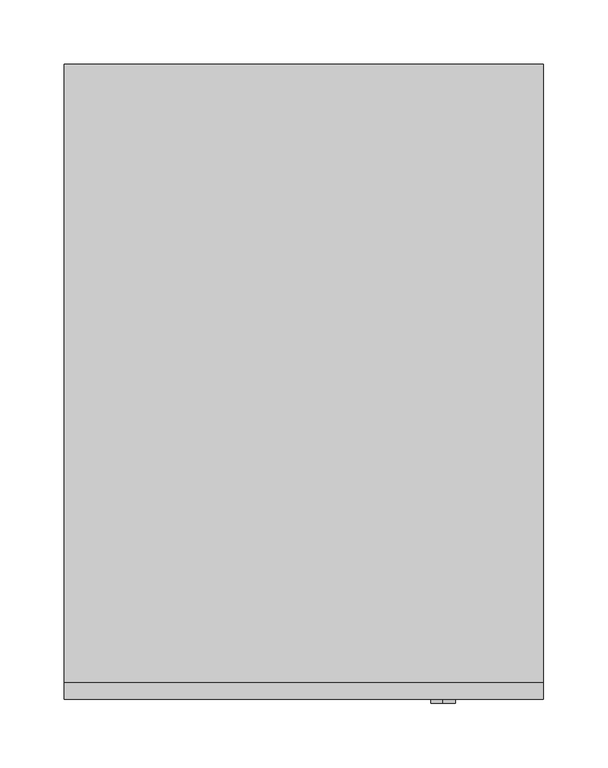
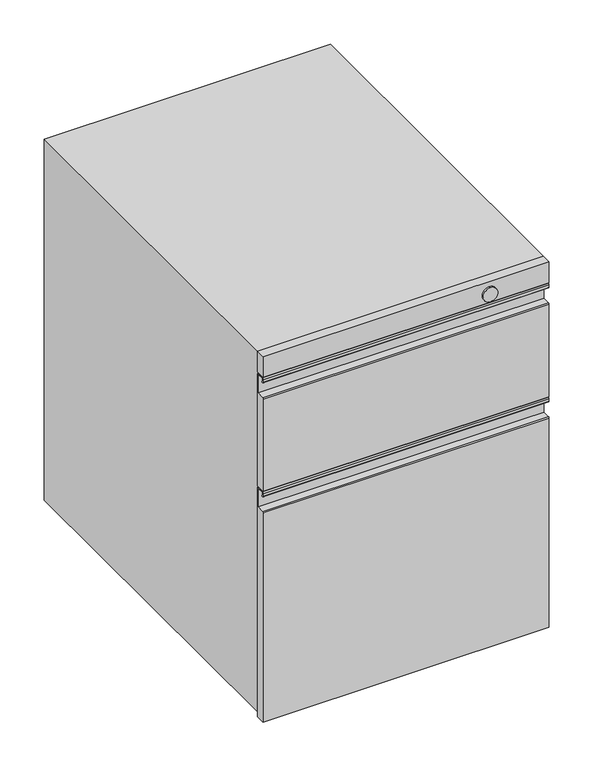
"""IFC4 building model written with IfcOpenShell, lengths in millimetres: furniture geometry, HermanMiller_TuStorage_LW130_W-PullSuspendedPedestal : 20D BF."""

from ifc_helpers import new_model, si_unit, point, frame, frame_2d, origin, place, context, project, spatial, polyline, circle_curve, trimmed, segment, composite_curve, outline, extrude, source, transform, mapped, element, save
from ifc_brep_helpers import plane_surface, cylinder_surface, advanced_brep


def furniture_da2f930f(model_context):
    return source(origin(), model_context, "Body", "SolidModel", [
        advanced_brep(
        [(185.7375, -244.8896699, 493.624086), (185.7375, -246.0624758, 492.4512802), (185.7375, -246.0625, 205.3844), (185.7375, -233.3624516, 205.3844), (185.7375, -233.3624516, 518.9528569), (185.7375, -234.9140147, 520.50442), (185.7375, -244.2949988, 520.50442), (185.7375, -245.8458495, 518.9535693), (185.7375, -245.8458495, 515.3478275), (185.7375, -243.4666911, 515.4834054), (185.7375, -245.0843404, 515.3913108), (185.7375, -245.0845437, 518.954576), (185.7375, -244.2971644, 519.742028), (185.7375, -234.9118361, 519.742028), (185.7375, -234.1235869, 518.9518145), (185.7375, -234.1235869, 493.624086), (-185.7375, -244.8896699, 493.624086), (-185.7375, -234.1235869, 493.624086), (-185.7375, -234.1235869, 518.9518145), (-185.7375, -234.9118361, 519.742028), (-185.7375, -244.2971644, 519.742028), (-185.7375, -245.0845437, 518.954576), (-185.7375, -245.0843404, 515.3913108), (-185.7375, -243.4666911, 515.4834054), (-185.7375, -245.8458495, 515.3478275), (-185.7375, -245.8458495, 518.9535693), (-185.7375, -244.2949988, 520.50442), (-185.7375, -234.9140147, 520.50442), (-185.7375, -233.3624516, 518.9528569), (-185.7375, -233.3624516, 205.3844), (-185.7375, -246.0625, 205.3844), (-185.7375, -246.0625, 492.4512802)],
        [
            (0, 1, circle_curve(frame((185.7375, -244.8896699, 492.4512802), z_axis=(1.0, 0.0, 0.0), x_axis=(0.0, 1.0, 0.0)), 1.1728058)),
            (1, 2),
            (2, 3),
            (3, 4),
            (4, 5, circle_curve(frame((185.7375, -234.9140147, 518.9528569), z_axis=(1.0, 0.0, 0.0), x_axis=(0.0, 1.0, 0.0)), 1.5515631)),
            (5, 6),
            (6, 7, circle_curve(frame((185.7375, -244.2949988, 518.9535693), z_axis=(1.0, 0.0, 0.0), x_axis=(0.0, 1.0, 0.0)), 1.5508507)),
            (7, 8),
            (8, 9, circle_curve(frame((185.7375, -244.6524073, 515.3478275), z_axis=(1.0, 0.0, 0.0), x_axis=(0.0, 1.0, 0.0)), 1.1934422)),
            (9, 10),
            (10, 11),
            (11, 12),
            (12, 13),
            (13, 14),
            (14, 15),
            (15, 0),
            (16, 17),
            (17, 18),
            (18, 19),
            (19, 20),
            (20, 21),
            (21, 22),
            (22, 23),
            (23, 24, circle_curve(frame((-185.7375, -244.6524073, 515.3478275), z_axis=(-1.0, 0.0, 0.0), x_axis=(0.0, 1.0, 0.0)), 1.1934422)),
            (24, 25),
            (25, 26, circle_curve(frame((-185.7375, -244.2949988, 518.9535693), z_axis=(-1.0, 0.0, 0.0), x_axis=(0.0, 1.0, 0.0)), 1.5508507)),
            (26, 27),
            (27, 28, circle_curve(frame((-185.7375, -234.9140147, 518.9528569), z_axis=(-1.0, 0.0, 0.0), x_axis=(0.0, 1.0, 0.0)), 1.5515631)),
            (28, 29),
            (29, 30),
            (30, 31),
            (31, 16, circle_curve(frame((-185.7375, -244.8896699, 492.4512802), z_axis=(-1.0, 0.0, 0.0), x_axis=(0.0, 1.0, 0.0)), 1.1728058)),
            (0, 16),
            (31, 1),
            (30, 2),
            (29, 3),
            (28, 4),
            (27, 5),
            (26, 6),
            (25, 7),
            (24, 8),
            (23, 9),
            (22, 10),
            (21, 11),
            (20, 12),
            (19, 13),
            (18, 14),
            (17, 15),
        ],
        [
            plane_surface(frame((185.7375, -243.7168641, 492.4512802), z_axis=(1.0, 0.0, 0.0), x_axis=(0.0, 0.0, 1.0))),
            plane_surface(frame((-185.7375, -243.7168641, 492.4512802), z_axis=(-1.0, 0.0, 0.0), x_axis=(0.0, 0.0, -1.0))),
            cylinder_surface(frame((-185.7375, -244.8896699, 492.4512802), z_axis=(1.0, 0.0, 0.0), x_axis=(0.0, 1.0, 0.0)), 1.1728058),
            plane_surface(frame((185.7375, -246.0625, 492.4512802), z_axis=(0.0, -1.0, 0.0), x_axis=(-1.0, 0.0, 0.0))),
            plane_surface(frame((185.7375, -246.0625, 205.3844), z_axis=(0.0, 0.0, -1.0), x_axis=(-1.0, 0.0, 0.0))),
            plane_surface(frame((185.7375, -233.3624516, 205.3844), z_axis=(0.0, 1.0, 0.0), x_axis=(-1.0, 0.0, 0.0))),
            cylinder_surface(frame((-185.7375, -234.9140147, 518.9528569), z_axis=(1.0, 0.0, 0.0), x_axis=(0.0, 1.0, 0.0)), 1.5515631),
            plane_surface(frame((185.7375, -234.9140147, 520.50442), z_axis=(0.0, 0.0, 1.0), x_axis=(-1.0, 0.0, 0.0))),
            cylinder_surface(frame((-185.7375, -244.2949988, 518.9535693), z_axis=(1.0, 0.0, 0.0), x_axis=(0.0, 1.0, 0.0)), 1.5508507),
            plane_surface(frame((185.7375, -245.8458495, 518.9535693), z_axis=(0.0, -1.0, 0.0), x_axis=(-1.0, 0.0, 0.0))),
            cylinder_surface(frame((-185.7375, -244.6524073, 515.3478275), z_axis=(1.0, 0.0, 0.0), x_axis=(0.0, 1.0, 0.0)), 1.1934422),
            plane_surface(frame((185.7375, -243.4666911, 515.4834054), z_axis=(0.0, -0.05683911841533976, 0.9983833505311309), x_axis=(-1.0, 0.0, 0.0))),
            plane_surface(frame((185.7375, -245.0843404, 515.3913108), z_axis=(0.0, 0.9999999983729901, 5.704401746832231e-05), x_axis=(-1.0, 0.0, 0.0))),
            plane_surface(frame((185.7375, -245.0845437, 518.954576), z_axis=(0.0, 0.707139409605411, -0.7070741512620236), x_axis=(-1.0, 0.0, 0.0))),
            plane_surface(frame((185.7375, -244.2971644, 519.742028), z_axis=(0.0, 0.0, -1.0), x_axis=(-1.0, 0.0, 0.0))),
            plane_surface(frame((185.7375, -234.9118361, 519.742028), z_axis=(0.0, -0.7079861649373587, -0.7062263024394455), x_axis=(-1.0, 0.0, 0.0))),
            plane_surface(frame((185.7375, -234.1235869, 518.9518145), z_axis=(0.0, -1.0, 0.0), x_axis=(-1.0, 0.0, 0.0))),
            plane_surface(frame((185.7375, -234.1235869, 493.624086), z_axis=(0.0, 0.0, 1.0), x_axis=(-1.0, 0.0, 0.0))),
        ],
        [
            (0, [[1, 2, 3, 4, 5, 6, 7, 8, 9, 10, 11, 12, 13, 14, 15, 16]]),
            (1, [[17, 18, 19, 20, 21, 22, 23, 24, 25, 26, 27, 28, 29, 30, 31, 32]]),
            (2, [[-1, 33, -32, 34]]),
            (3, [[-2, -34, -31, 35]]),
            (4, [[-3, -35, -30, 36]]),
            (5, [[-4, -36, -29, 37]]),
            (6, [[-5, -37, -28, 38]]),
            (7, [[-6, -38, -27, 39]]),
            (8, [[-7, -39, -26, 40]]),
            (9, [[-8, -40, -25, 41]]),
            (10, [[-9, -41, -24, 42]]),
            (11, [[-10, -42, -23, 43]]),
            (12, [[-11, -43, -22, 44]]),
            (13, [[-12, -44, -21, 45]]),
            (14, [[-13, -45, -20, 46]]),
            (15, [[-14, -46, -19, 47]]),
            (16, [[-15, -47, -18, 48]]),
            (17, [[-16, -48, -17, -33]]),
        ],
    ),
        advanced_brep(
        [(185.7375, -233.3624516, 675.320324), (185.7375, -234.9140147, 676.8718871), (185.7375, -244.2949988, 676.8718871), (185.7375, -245.8458495, 675.3210364), (185.7375, -245.8458495, 671.7152947), (185.7375, -243.4666911, 671.8508725), (185.7375, -245.0843404, 671.7587779), (185.7375, -245.0845437, 675.3220431), (185.7375, -244.2971644, 676.1094951), (185.7375, -234.9118361, 676.1094951), (185.7375, -234.1235869, 675.3192816), (185.7375, -234.1235869, 649.9915532), (185.7375, -244.8896699, 649.9915532), (185.7375, -246.0624758, 648.8187473), (185.7375, -246.0625, 522.0919071), (185.7375, -233.3624516, 522.0919071), (-185.7375, -233.3624516, 675.320324), (-185.7375, -233.3624516, 522.0919071), (-185.7375, -246.0625, 522.0919071), (-185.7375, -246.0625, 648.8187473), (-185.7375, -244.8896699, 649.9915532), (-185.7375, -234.1235869, 649.9915532), (-185.7375, -234.1235869, 675.3192816), (-185.7375, -234.9118361, 676.1094951), (-185.7375, -244.2971644, 676.1094951), (-185.7375, -245.0845437, 675.3220431), (-185.7375, -245.0843404, 671.7587779), (-185.7375, -243.4666911, 671.8508725), (-185.7375, -245.8458495, 671.7152947), (-185.7375, -245.8458495, 675.3210364), (-185.7375, -244.2949988, 676.8718871), (-185.7375, -234.9140147, 676.8718871)],
        [
            (0, 1, circle_curve(frame((185.7375, -234.9140147, 675.320324), z_axis=(1.0, 0.0, 0.0), x_axis=(0.0, 1.0, 0.0)), 1.5515631)),
            (1, 2),
            (2, 3, circle_curve(frame((185.7375, -244.2949988, 675.3210364), z_axis=(1.0, 0.0, 0.0), x_axis=(0.0, 1.0, 0.0)), 1.5508507)),
            (3, 4),
            (4, 5, circle_curve(frame((185.7375, -244.6524073, 671.7152947), z_axis=(1.0, 0.0, 0.0), x_axis=(0.0, 1.0, 0.0)), 1.1934422)),
            (5, 6),
            (6, 7),
            (7, 8),
            (8, 9),
            (9, 10),
            (10, 11),
            (11, 12),
            (12, 13, circle_curve(frame((185.7375, -244.8896699, 648.8187473), z_axis=(1.0, 0.0, 0.0), x_axis=(0.0, 1.0, 0.0)), 1.1728058)),
            (13, 14),
            (14, 15),
            (15, 0),
            (16, 17),
            (17, 18),
            (18, 19),
            (19, 20, circle_curve(frame((-185.7375, -244.8896699, 648.8187473), z_axis=(-1.0, 0.0, 0.0), x_axis=(0.0, 1.0, 0.0)), 1.1728058)),
            (20, 21),
            (21, 22),
            (22, 23),
            (23, 24),
            (24, 25),
            (25, 26),
            (26, 27),
            (27, 28, circle_curve(frame((-185.7375, -244.6524073, 671.7152947), z_axis=(-1.0, 0.0, 0.0), x_axis=(0.0, 1.0, 0.0)), 1.1934422)),
            (28, 29),
            (29, 30, circle_curve(frame((-185.7375, -244.2949988, 675.3210364), z_axis=(-1.0, 0.0, 0.0), x_axis=(0.0, 1.0, 0.0)), 1.5508507)),
            (30, 31),
            (31, 16, circle_curve(frame((-185.7375, -234.9140147, 675.320324), z_axis=(-1.0, 0.0, 0.0), x_axis=(0.0, 1.0, 0.0)), 1.5515631)),
            (0, 16),
            (31, 1),
            (30, 2),
            (29, 3),
            (28, 4),
            (27, 5),
            (26, 6),
            (25, 7),
            (24, 8),
            (23, 9),
            (22, 10),
            (21, 11),
            (20, 12),
            (19, 13),
            (18, 14),
            (17, 15),
        ],
        [
            plane_surface(frame((185.7375, -233.3624516, 675.320324), z_axis=(1.0, 0.0, 0.0), x_axis=(0.0, 0.0, 1.0))),
            plane_surface(frame((-185.7375, -233.3624516, 675.320324), z_axis=(-1.0, 0.0, 0.0), x_axis=(0.0, 0.0, -1.0))),
            cylinder_surface(frame((-185.7375, -234.9140147, 675.320324), z_axis=(1.0, 0.0, 0.0), x_axis=(0.0, 1.0, 0.0)), 1.5515631),
            plane_surface(frame((185.7375, -234.9140147, 676.8718871), z_axis=(0.0, 0.0, 1.0), x_axis=(-1.0, 0.0, 0.0))),
            cylinder_surface(frame((-185.7375, -244.2949988, 675.3210364), z_axis=(1.0, 0.0, 0.0), x_axis=(0.0, 1.0, 0.0)), 1.5508507),
            plane_surface(frame((185.7375, -245.8458495, 675.3210364), z_axis=(0.0, -1.0, 0.0), x_axis=(-1.0, 0.0, 0.0))),
            cylinder_surface(frame((-185.7375, -244.6524073, 671.7152947), z_axis=(1.0, 0.0, 0.0), x_axis=(0.0, 1.0, 0.0)), 1.1934422),
            plane_surface(frame((185.7375, -243.4666911, 671.8508725), z_axis=(0.0, -0.05683911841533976, 0.9983833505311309), x_axis=(-1.0, 0.0, 0.0))),
            plane_surface(frame((185.7375, -245.0843404, 671.7587779), z_axis=(0.0, 0.9999999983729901, 5.704401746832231e-05), x_axis=(-1.0, 0.0, 0.0))),
            plane_surface(frame((185.7375, -245.0845437, 675.3220431), z_axis=(0.0, 0.7071394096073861, -0.7070741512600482), x_axis=(-1.0, 0.0, 0.0))),
            plane_surface(frame((185.7375, -244.2971644, 676.1094951), z_axis=(0.0, 0.0, -1.0), x_axis=(-1.0, 0.0, 0.0))),
            plane_surface(frame((185.7375, -234.9118361, 676.1094951), z_axis=(0.0, -0.7079861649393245, -0.7062263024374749), x_axis=(-1.0, 0.0, 0.0))),
            plane_surface(frame((185.7375, -234.1235869, 675.3192816), z_axis=(0.0, -1.0, 0.0), x_axis=(-1.0, 0.0, 0.0))),
            plane_surface(frame((185.7375, -234.1235869, 649.9915532), z_axis=(0.0, 0.0, 1.0), x_axis=(-1.0, 0.0, 0.0))),
            cylinder_surface(frame((-185.7375, -244.8896699, 648.8187473), z_axis=(1.0, 0.0, 0.0), x_axis=(0.0, 1.0, 0.0)), 1.1728058),
            plane_surface(frame((185.7375, -246.0625, 648.8187473), z_axis=(0.0, -1.0, 0.0), x_axis=(-1.0, 0.0, 0.0))),
            plane_surface(frame((185.7375, -246.0625, 522.0919071), z_axis=(0.0, 0.0, -1.0), x_axis=(-1.0, 0.0, 0.0))),
            plane_surface(frame((185.7375, -233.3624516, 522.0919071), z_axis=(0.0, 1.0, 0.0), x_axis=(-1.0, 0.0, 0.0))),
        ],
        [
            (0, [[1, 2, 3, 4, 5, 6, 7, 8, 9, 10, 11, 12, 13, 14, 15, 16]]),
            (1, [[17, 18, 19, 20, 21, 22, 23, 24, 25, 26, 27, 28, 29, 30, 31, 32]]),
            (2, [[-1, 33, -32, 34]]),
            (3, [[-2, -34, -31, 35]]),
            (4, [[-3, -35, -30, 36]]),
            (5, [[-4, -36, -29, 37]]),
            (6, [[-5, -37, -28, 38]]),
            (7, [[-6, -38, -27, 39]]),
            (8, [[-7, -39, -26, 40]]),
            (9, [[-8, -40, -25, 41]]),
            (10, [[-9, -41, -24, 42]]),
            (11, [[-10, -42, -23, 43]]),
            (12, [[-11, -43, -22, 44]]),
            (13, [[-12, -44, -21, 45]]),
            (14, [[-13, -45, -20, 46]]),
            (15, [[-14, -46, -19, 47]]),
            (16, [[-15, -47, -18, 48]]),
            (17, [[-16, -48, -17, -33]]),
        ],
    ),
        extrude(outline(polyline([(185.7375, -233.3624516), (185.7375, -246.0625), (-185.7375, -246.0625), (-185.7375, -233.3624516), (185.7375, -233.3624516)])), frame((0.0, 0.0, 678.4594), z_axis=(0.0, 0.0, 1.0), x_axis=(1.0, 0.0, 0.0)), (0.0, 0.0, 1.0), 28.575),
        extrude(outline(polyline([(185.7375, 246.0625), (185.7375, -233.3624516), (-185.7375, -233.3624516), (-185.7375, 246.0625), (185.7375, 246.0625)])), frame((0.0, 0.0, 211.7344), z_axis=(0.0, 0.0, 1.0), x_axis=(1.0, 0.0, 0.0)), (0.0, 0.0, 1.0), 495.3),
        extrude(outline(composite_curve([segment(trimmed(circle_curve(frame_2d((691.1594242, 107.9500242)), 9.525), [point((681.6344242, 107.9500242))], [point((700.6844242, 107.9500242))], False, "CARTESIAN"), True, "CONTINUOUS"), segment(trimmed(circle_curve(frame_2d((691.1594242, 107.9500242)), 9.525), [point((700.6844242, 107.9500242))], [point((681.6344242, 107.9500242))], False, "CARTESIAN"), True, "CONTINUOUS")], self_intersect=False)), frame((0.0, -249.2374879, 0.0), z_axis=(0.0, 1.0, 0.0), x_axis=(0.0, 0.0, 1.0)), (0.0, 0.0, 1.0), 3.1749879),
    ])


if __name__ == "__main__":
    model = new_model("IFC4")
    model_context = context("Model", 3, world=origin())
    ifc_project = project(units=[si_unit("LENGTHUNIT", "METRE", prefix="MILLI")], contexts=[model_context])
    site = spatial("IfcSite", under=ifc_project)
    building = spatial("IfcBuilding", under=site)
    placement = place(None, origin())
    furniture_shape = furniture_da2f930f(model_context)
    element("IfcFurniture", 1, ObjectType="HermanMiller_TuStorage_LW130_W-PullSuspendedPedestal : 20D BF", at=placement, inside=building, context=model_context, shape_type="MappedRepresentation", body=[
        mapped(furniture_shape, transform((0.0, 0.0, 0.0), x_axis=(1.0, 0.0, 0.0), y_axis=(0.0, 1.0, 0.0), z_axis=(0.0, 0.0, 1.0))),
    ])
    save(model, "model.ifc")
